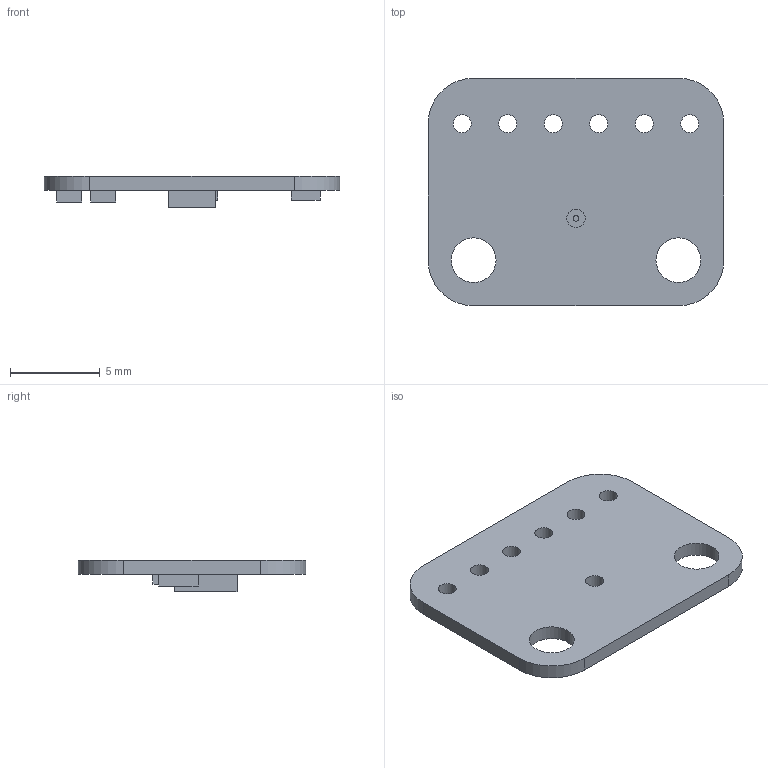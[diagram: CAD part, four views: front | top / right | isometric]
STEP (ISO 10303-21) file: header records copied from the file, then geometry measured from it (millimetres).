
FILE_DESCRIPTION(/* description */ (''),/* implementation_level */ '2;1');
FILE_NAME(/* name */ 'REF_MIC_Adafruit3421_NOMINAL.step',/* time_stamp */ '2026-09-16T19:15:08-07:00',/* author */ (''),/* organization */ (''),/* preprocessor_version */ 'ST-DEVELOPER v20.1',/* originating_system */ 'Autodesk Translation Framework v15.8.0.0',/* authorisation */ '');
FILE_SCHEMA (('AUTOMOTIVE_DESIGN { 1 0 10303 214 3 1 1 }'));
Length unit declared in the file: centimetre
Products named in the file (7): 2026-09-16-19-15-08-836; 2026-09-16-19-15-08-836_1; 2026-09-16-19-15-08-836_2; 2026-09-16-19-15-08-836_3; 2026-09-16-19-15-08-836_4; 2026-09-16-19-15-08-836_5; 2026-09-16-19-15-08-836_6
Assembly tree (6 placements, depth 2):
  2026-09-16-19-15-08-836
    2026-09-16-19-15-08-836_1
    2026-09-16-19-15-08-836_2
    2026-09-16-19-15-08-836_3
    2026-09-16-19-15-08-836_4
    2026-09-16-19-15-08-836_5
    2026-09-16-19-15-08-836_6
Bounding box: 16.51 x 12.7 x 1.78 mm (x, y, z)
Volume: 165.5 mm3; surface area: 513.8 mm2
Topology: 6 solids, 6 shells, 51 faces, 114 edges, 76 vertices
Faces by surface type: plane 37, cylinder 14
Full cylindrical faces by diameter (mm): 0.325 x1, 1 x6, 1.025 x1, 2.5 x2
Entity records: 1672 total; most frequent: DIRECTION 270, CARTESIAN_POINT 254, ORIENTED_EDGE 228, EDGE_CURVE 114, AXIS2_PLACEMENT_3D 92, LINE 86, VECTOR 86, VERTEX_POINT 76
